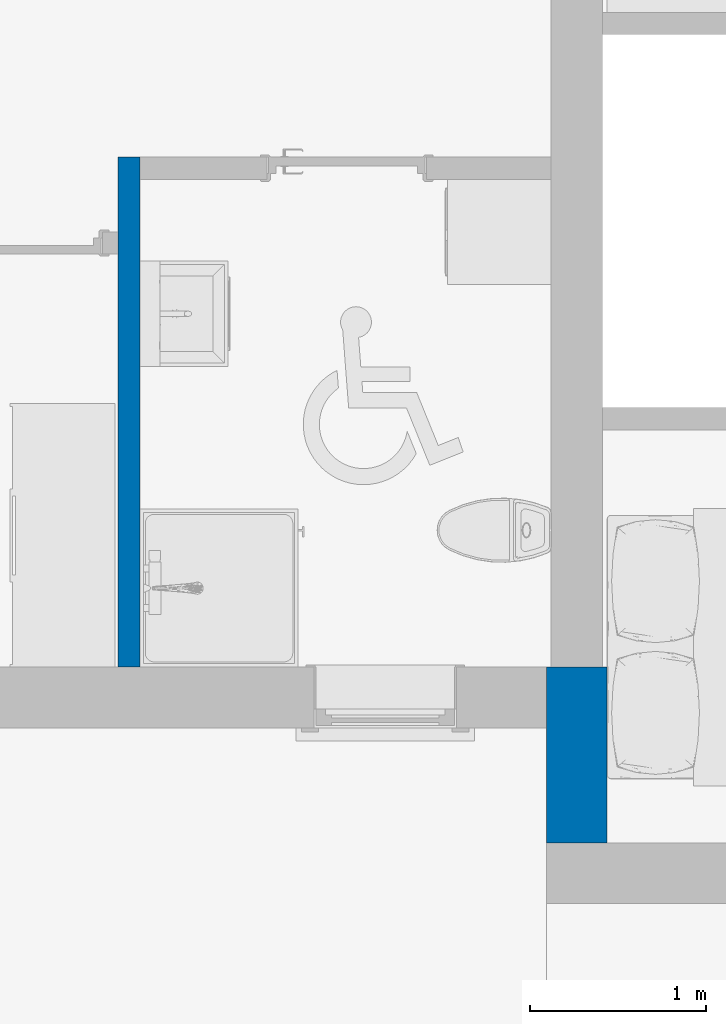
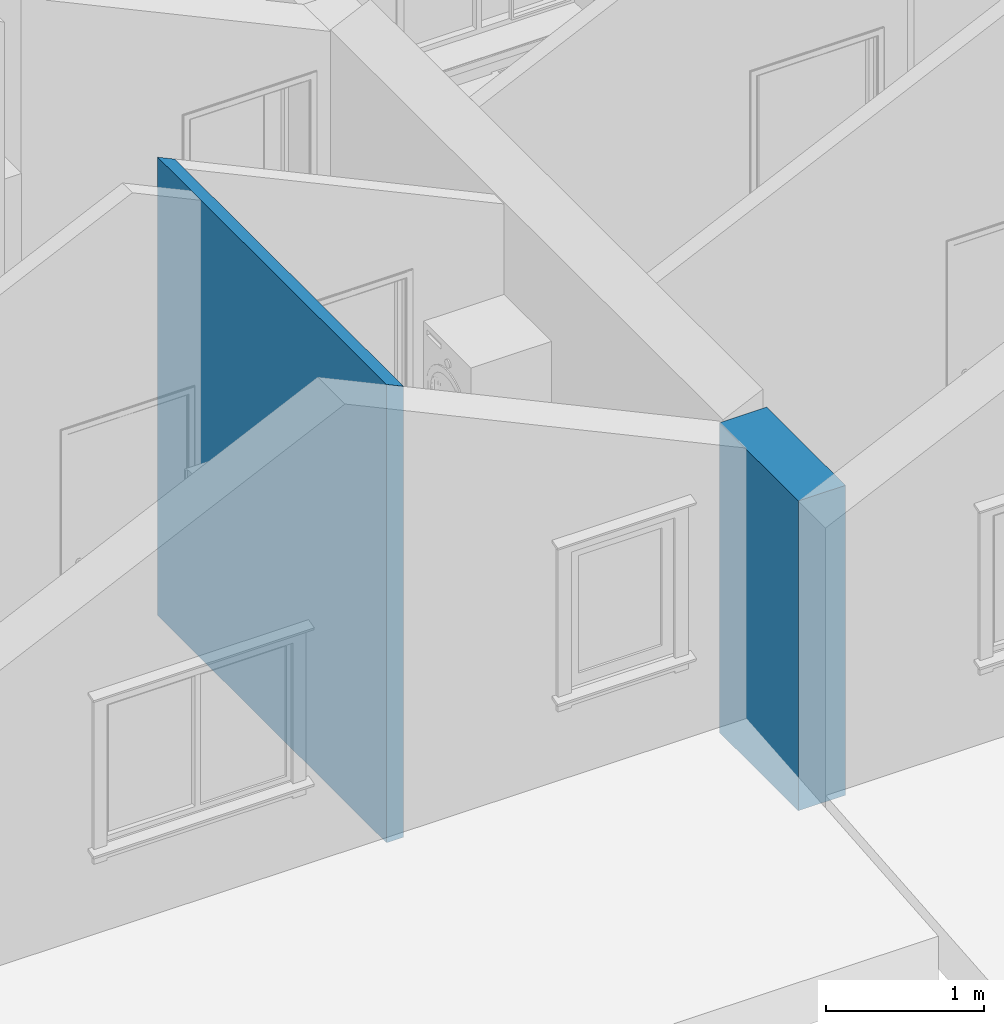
# One storey, part 4 of 44: 2 walls.
"""IFC2X3 building model written with IfcOpenShell, lengths in millimetres."""

from ifc_helpers import new_model, entity, si_unit, converted_unit, direction, frame, frame_2d, origin, place, context, subcontext, project, spatial, polyline, rectangle, extrude, clip, bounded_halfspace, material, layer, layer_set, layer_usage, type_object, element, save


model = new_model("IFC2X3")

# Units and contexts
model_context = context("Model", 3, precision=0.01, world=origin(), true_north=direction((0.0, 1.0)))
body_context = subcontext(model_context, "Body", "Model", "MODEL_VIEW")
ifc_project = project(units=[si_unit("LENGTHUNIT", "METRE", prefix="MILLI"), si_unit("AREAUNIT", "SQUARE_METRE"), si_unit("VOLUMEUNIT", "CUBIC_METRE"), converted_unit("PLANEANGLEUNIT", "DEGREE", entity("IfcPlaneAngleMeasure", 0.017453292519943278), si_unit("PLANEANGLEUNIT", "RADIAN"), dimensions=[0, 0, 0, 0, 0, 0, 0])], contexts=[model_context])

# Site, building, storey
site_placement = place(None, origin())
site = spatial("IfcSite", under=ifc_project, at=site_placement, Name="Default", CompositionType="ELEMENT")
building_placement = place(site_placement, origin())
building = spatial("IfcBuilding", under=site, at=building_placement, CompositionType="ELEMENT")
storey_placement = place(building_placement, frame((0.0, 0.0, 2681.0)))
storey = spatial("IfcBuildingStorey", under=building, at=storey_placement, Name="Et. 2", CompositionType="ELEMENT", Elevation=2681.0)

# Walls
ifc_material_1 = material(Name="Vegg - Stående Kledning_smal - HVIT")
ifc_layer_1 = layer(ifc_material_1, 19.0)
ifc_material_2 = material(Name="Vegg - Utlekting")
ifc_layer_2 = layer(ifc_material_2, 36.0)
ifc_layer_3 = layer(ifc_material_2, 23.0)
ifc_material_3 = material(Name="Vegg - Gips - GU")
ifc_layer_4 = layer(ifc_material_3, 9.0)
ifc_material_4 = material(Name="Vegg - Stender - Isolert")
ifc_layer_5 = layer(ifc_material_4, 198.0)
ifc_material_5 = material(Name="Vegg - Påforing - Isolert")
ifc_layer_6 = layer(ifc_material_5, 48.0)
ifc_material_6 = material(Name="Vegg - Gips - Hvit")
ifc_layer_7 = layer(ifc_material_6, 13.000000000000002)
ifc_layer_set_1 = layer_set([ifc_layer_1, ifc_layer_2, ifc_layer_3, ifc_layer_4, ifc_layer_5, ifc_layer_6, ifc_layer_7], Name="Basic Wall:23-Kv(sm)TIG-19_36_23_9_198_48_13")
ifc_layer_usage_1 = layer_usage(ifc_layer_set_1, "AXIS2", "NEGATIVE", 173.0)
wall_type_1 = type_object("IfcWallType", Name="Basic Wall:23-Kv(sm)TIG-19_36_23_9_198_48_13", PredefinedType="STANDARD", material=ifc_layer_set_1)
wall_1_placement = place(storey_placement, frame((16178.009586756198, 10754.180957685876, 0.0), z_axis=(0.0, 0.0, 1.0), x_axis=(0.0, 1.0, 0.0)))
element("IfcWallStandardCase", 1, at=wall_1_placement, inside=storey, type_object=wall_type_1, material=ifc_layer_usage_1, Name="Basic Wall:23-Kv(sm)TIG-19_36_23_9_198_48_13", context=body_context, shape_type="SweptSolid", body=[
    extrude(rectangle(XDim=1000.0000000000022, YDim=345.9999999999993, at=frame_2d((500.0000000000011, 0.0), x_axis=(-1.0, 0.0))), origin(), (0.0, 0.0, 1.0), 2400.0),
])
ifc_material_7 = material(Name="Vegg - Gips - Innvendig - Hvit")
ifc_layer_8 = layer(ifc_material_7, 13.000000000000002)
ifc_material_8 = material(Name="Vegg - Stender - Stål - Isolert")
ifc_layer_9 = layer(ifc_material_8, 100.0)
ifc_layer_10 = layer(ifc_material_7, 13.000000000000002)
ifc_layer_set_2 = layer_set([ifc_layer_8, ifc_layer_9, ifc_layer_10], Name="Basic Wall:24-GSIG-13_100_13")
ifc_layer_usage_2 = layer_usage(ifc_layer_set_2, "AXIS2", "NEGATIVE", 63.00000000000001)
wall_type_2 = type_object("IfcWallType", Name="Basic Wall:24-GSIG-13_100_13", PredefinedType="STANDARD", material=ifc_layer_set_2)
wall_2_placement = place(storey_placement, frame((13628.009586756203, 14658.058719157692, 0.0), z_axis=(0.0, 0.0, 1.0), x_axis=(0.0, -1.0, 0.0)))
element("IfcWallStandardCase", 2, at=wall_2_placement, inside=storey, type_object=wall_type_2, material=ifc_layer_usage_2, Name="Basic Wall:24-GSIG-13_100_13", context=body_context, shape_type="Clipping", body=[
    clip(extrude(rectangle(XDim=2903.8777614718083, YDim=126.00000000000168, at=frame_2d((1451.9388807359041, 4.405364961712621e-13), x_axis=(-1.0, 0.0))), origin(), (0.0, 0.0, 1.0), 3550.3809926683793), bounded_halfspace(frame((0.0, -63.0, 3550.380992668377), z_axis=(0.0, 0.42261826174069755, 0.9063077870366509), x_axis=(-1.0, 0.0, 0.0)), False, frame((0.0, -63.0, 3550.380992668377)), polyline([(0.0, 0.0), (426.0, 0.0), (552.0, 0.0), (2903.8777614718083, 0.0), (2903.8777614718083, 126.0), (126.0, 126.0), (0.0, 126.0), (0.0, 0.0)]))),
])

save(model, "model.ifc")
